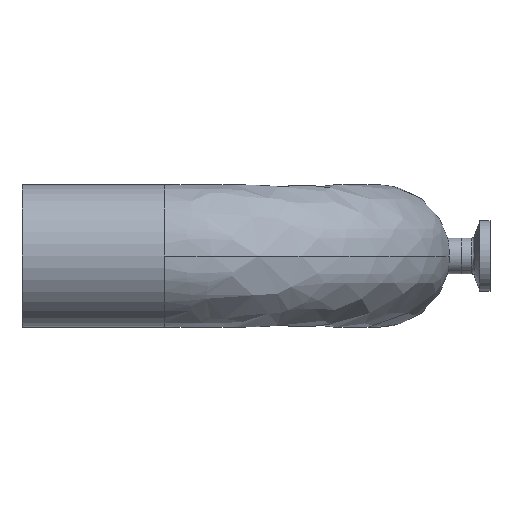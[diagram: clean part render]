
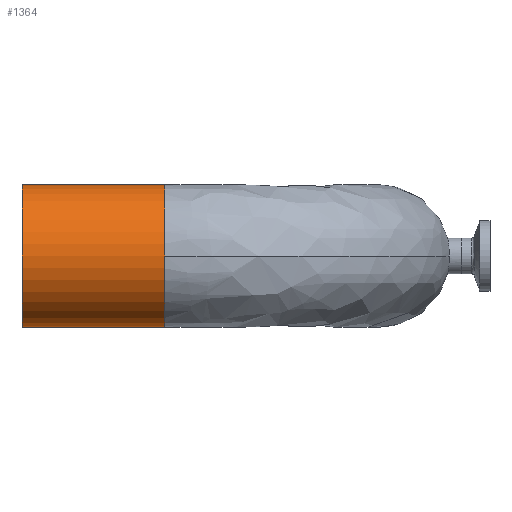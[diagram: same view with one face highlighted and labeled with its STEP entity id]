
A CAD part, left-side view. The second image highlights one B-rep face of the part: STEP entity #1364.
In plain terms, the highlighted cylindrical face has radius 25.4 mm (diameter 50.8 mm), a partial arc.
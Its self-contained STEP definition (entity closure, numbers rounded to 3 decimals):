
#167 = VECTOR ( 'NONE', #425, 1000. ) ;
#217 = EDGE_CURVE ( 'NONE', #1183, #664, #953, .T. ) ;
#298 = VECTOR ( 'NONE', #782, 1000. ) ;
#313 = EDGE_CURVE ( 'NONE', #379, #490, #891, .T. ) ;
#365 = ORIENTED_EDGE ( 'NONE', *, *, #217, .T. ) ;
#379 = VERTEX_POINT ( 'NONE', #633 ) ;
#385 = LINE ( 'NONE', #668, #167 ) ;
#399 = CARTESIAN_POINT ( 'NONE',  ( -76.2, 76.2, 0. ) ) ;
#404 = DIRECTION ( 'NONE',  ( 0., -1., 0. ) ) ;
#425 = DIRECTION ( 'NONE',  ( 0., 1., 0. ) ) ;
#460 = EDGE_CURVE ( 'NONE', #490, #664, #719, .T. ) ;
#470 = CIRCLE ( 'NONE', #481, 25.4 ) ;
#473 = AXIS2_PLACEMENT_3D ( 'NONE', #1278, #1309, #550 ) ;
#481 = AXIS2_PLACEMENT_3D ( 'NONE', #399, #404, #518 ) ;
#490 = VERTEX_POINT ( 'NONE', #1421 ) ;
#518 = DIRECTION ( 'NONE',  ( -1., 0., 0. ) ) ;
#550 = DIRECTION ( 'NONE',  ( 0., 0., 1. ) ) ;
#633 = CARTESIAN_POINT ( 'NONE',  ( -101.6, 76.2, 0. ) ) ;
#664 = VERTEX_POINT ( 'NONE', #1339 ) ;
#668 = CARTESIAN_POINT ( 'NONE',  ( -76.2, 76.2, 25.4 ) ) ;
#713 = EDGE_CURVE ( 'NONE', #842, #379, #470, .T. ) ;
#719 = LINE ( 'NONE', #911, #298 ) ;
#736 = AXIS2_PLACEMENT_3D ( 'NONE', #1399, #1327, #1431 ) ;
#771 = FACE_OUTER_BOUND ( 'NONE', #1551, .T. ) ;
#782 = DIRECTION ( 'NONE',  ( 0., 1., 0. ) ) ;
#842 = VERTEX_POINT ( 'NONE', #1082 ) ;
#876 = EDGE_CURVE ( 'NONE', #842, #1183, #385, .T. ) ;
#891 = CIRCLE ( 'NONE', #1494, 25.4 ) ;
#911 = CARTESIAN_POINT ( 'NONE',  ( -76.2, 76.2, -25.4 ) ) ;
#947 = CYLINDRICAL_SURFACE ( 'NONE', #473, 25.4 ) ;
#953 = CIRCLE ( 'NONE', #736, 25.4 ) ;
#971 = CARTESIAN_POINT ( 'NONE',  ( -76.2, 76.2, 0. ) ) ;
#982 = DIRECTION ( 'NONE',  ( 0., -1., 0. ) ) ;
#1082 = CARTESIAN_POINT ( 'NONE',  ( -76.2, 76.2, 25.4 ) ) ;
#1084 = DIRECTION ( 'NONE',  ( -1., 0., 0. ) ) ;
#1117 = CARTESIAN_POINT ( 'NONE',  ( -76.2, 127., 25.4 ) ) ;
#1183 = VERTEX_POINT ( 'NONE', #1117 ) ;
#1278 = CARTESIAN_POINT ( 'NONE',  ( -76.2, 76.2, 0. ) ) ;
#1309 = DIRECTION ( 'NONE',  ( 0., 1., 0. ) ) ;
#1327 = DIRECTION ( 'NONE',  ( 0., -1., 0. ) ) ;
#1339 = CARTESIAN_POINT ( 'NONE',  ( -76.2, 127., -25.4 ) ) ;
#1364 = ADVANCED_FACE ( 'NONE', ( #771 ), #947, .T. ) ;
#1399 = CARTESIAN_POINT ( 'NONE',  ( -76.2, 127., 0. ) ) ;
#1421 = CARTESIAN_POINT ( 'NONE',  ( -76.2, 76.2, -25.4 ) ) ;
#1431 = DIRECTION ( 'NONE',  ( 0., 0., 1. ) ) ;
#1494 = AXIS2_PLACEMENT_3D ( 'NONE', #971, #982, #1084 ) ;
#1501 = ORIENTED_EDGE ( 'NONE', *, *, #876, .T. ) ;
#1519 = ORIENTED_EDGE ( 'NONE', *, *, #713, .F. ) ;
#1551 = EDGE_LOOP ( 'NONE', ( #1595, #1574, #1519, #1501, #365 ) ) ;
#1574 = ORIENTED_EDGE ( 'NONE', *, *, #313, .F. ) ;
#1595 = ORIENTED_EDGE ( 'NONE', *, *, #460, .F. ) ;
